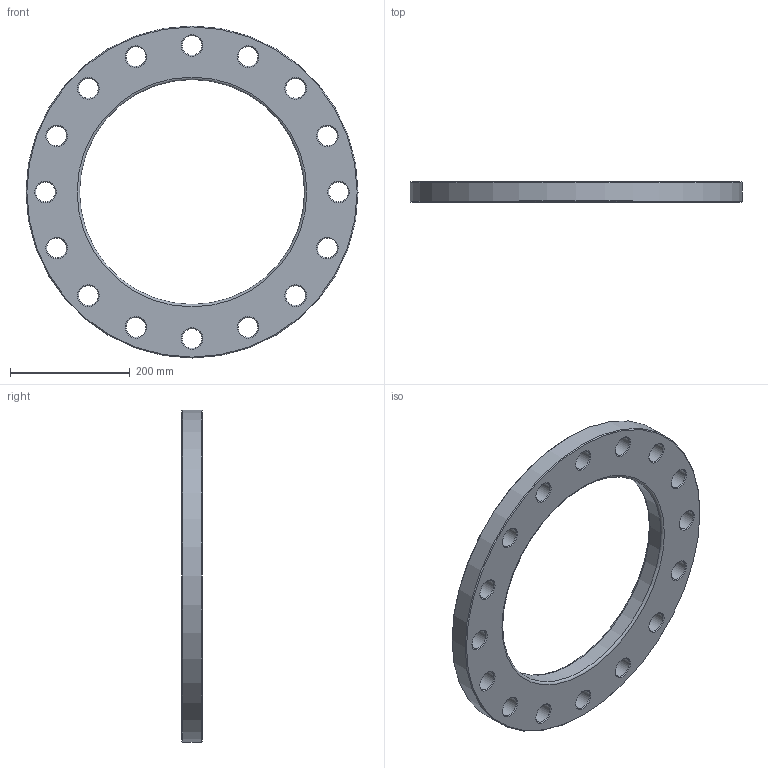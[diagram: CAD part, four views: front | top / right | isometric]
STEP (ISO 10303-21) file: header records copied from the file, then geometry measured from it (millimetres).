
FILE_DESCRIPTION(/* description */ ('Unknown'),/* implementation_level */ '2;1');
FILE_NAME(/* name */ 'FZ355H',/* time_stamp */ '2021-03-15T14:53:54+01:00',/* author */ ('Unknown'),/* organization */ ('Unknown'),/* preprocessor_version */ 'ST-DEVELOPER v16.7',/* originating_system */ 'Solid Edge',/* authorisation */ 'Unknown');
FILE_SCHEMA (('AUTOMOTIVE_DESIGN {1 0 10303 214 3 1 1}'));
Length unit declared in the file: millimetre
Products named in the file (1): FZ355H
Bounding box: 555 x 34 x 555 mm (x, y, z)
Volume: 3968923.7 mm3; surface area: 380310.9 mm2
Topology: 1 solids, 1 shells, 56 faces, 174 edges, 120 vertices
Faces by surface type: cone 34, cylinder 18, plane 2, torus 2
Full cylindrical faces by diameter (mm): 33 x16, 376 x1, 555 x1
Entity records: 1382 total; most frequent: DIRECTION 258, CARTESIAN_POINT 201, ORIENTED_EDGE 144, EDGE_LOOP 144, FACE_BOUND 144, AXIS2_PLACEMENT_3D 129, EDGE_CURVE 72, VERTEX_POINT 72
